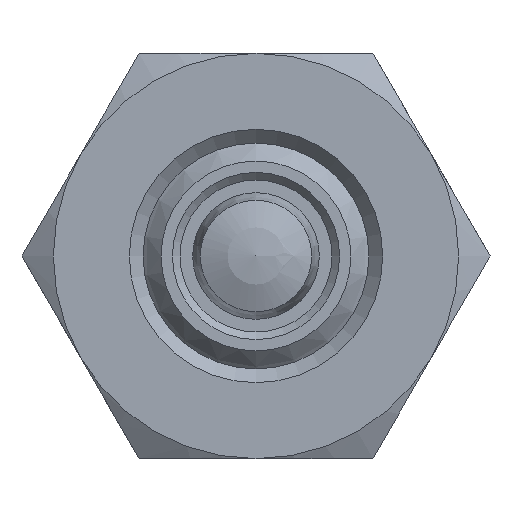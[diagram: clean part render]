
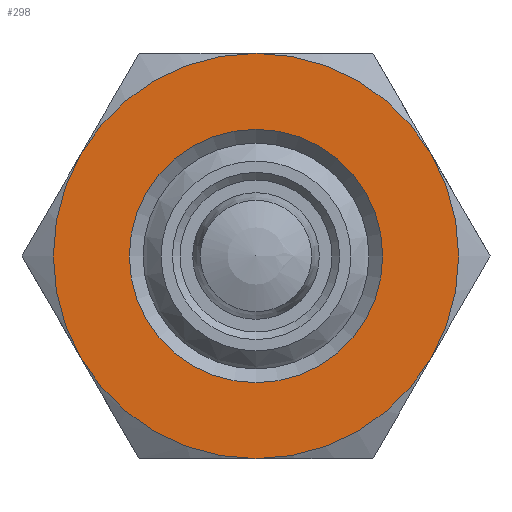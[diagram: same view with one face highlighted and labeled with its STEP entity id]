
A CAD part, front view. The second image highlights one B-rep face of the part: STEP entity #298.
In plain terms, the highlighted planar face has unit normal (0, -1, 0).
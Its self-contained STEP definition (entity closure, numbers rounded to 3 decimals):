
#298 = ADVANCED_FACE( '', ( #445, #446 ), #447, .F. );
#445 = FACE_BOUND( '', #595, .T. );
#446 = FACE_OUTER_BOUND( '', #596, .T. );
#447 = PLANE( '', #597 );
#595 = EDGE_LOOP( '', ( #937 ) );
#596 = EDGE_LOOP( '', ( #938, #939, #940, #941, #942, #943 ) );
#597 = AXIS2_PLACEMENT_3D( '', #944, #945, #946 );
#937 = ORIENTED_EDGE( '', *, *, #1046, .F. );
#938 = ORIENTED_EDGE( '', *, *, #1049, .T. );
#939 = ORIENTED_EDGE( '', *, *, #1050, .T. );
#940 = ORIENTED_EDGE( '', *, *, #1016, .T. );
#941 = ORIENTED_EDGE( '', *, *, #1041, .T. );
#942 = ORIENTED_EDGE( '', *, *, #1042, .T. );
#943 = ORIENTED_EDGE( '', *, *, #1043, .T. );
#944 = CARTESIAN_POINT( '', ( 8., 0., 0. ) );
#945 = DIRECTION( '', ( 0., 1., 0. ) );
#946 = DIRECTION( '', ( 0., 0., 1. ) );
#1016 = EDGE_CURVE( '', #1156, #1157, #1158, .T. );
#1041 = EDGE_CURVE( '', #1157, #1138, #1195, .T. );
#1042 = EDGE_CURVE( '', #1138, #1150, #1196, .T. );
#1043 = EDGE_CURVE( '', #1150, #1197, #1198, .T. );
#1046 = EDGE_CURVE( '', #1201, #1201, #1202, .T. );
#1049 = EDGE_CURVE( '', #1197, #1165, #1207, .T. );
#1050 = EDGE_CURVE( '', #1165, #1156, #1208, .T. );
#1138 = VERTEX_POINT( '', #1411 );
#1150 = VERTEX_POINT( '', #1445 );
#1156 = VERTEX_POINT( '', #1475 );
#1157 = VERTEX_POINT( '', #1476 );
#1158 = CIRCLE( '', #1477, 8. );
#1165 = VERTEX_POINT( '', #1497 );
#1195 = CIRCLE( '', #1597, 8. );
#1196 = CIRCLE( '', #1598, 8. );
#1197 = VERTEX_POINT( '', #1599 );
#1198 = CIRCLE( '', #1600, 8. );
#1201 = VERTEX_POINT( '', #1615 );
#1202 = CIRCLE( '', #1616, 5. );
#1207 = CIRCLE( '', #1621, 8. );
#1208 = CIRCLE( '', #1622, 8. );
#1411 = CARTESIAN_POINT( '', ( -8., 0., 0. ) );
#1445 = CARTESIAN_POINT( '', ( -4., 0., -6.928 ) );
#1475 = CARTESIAN_POINT( '', ( 4., 0., 6.928 ) );
#1476 = CARTESIAN_POINT( '', ( -4., 0., 6.928 ) );
#1477 = AXIS2_PLACEMENT_3D( '', #1713, #1714, #1715 );
#1497 = CARTESIAN_POINT( '', ( 8., 0., 0. ) );
#1597 = AXIS2_PLACEMENT_3D( '', #1740, #1741, #1742 );
#1598 = AXIS2_PLACEMENT_3D( '', #1743, #1744, #1745 );
#1599 = CARTESIAN_POINT( '', ( 4., 0., -6.928 ) );
#1600 = AXIS2_PLACEMENT_3D( '', #1746, #1747, #1748 );
#1615 = CARTESIAN_POINT( '', ( 0., 0., -5. ) );
#1616 = AXIS2_PLACEMENT_3D( '', #1749, #1750, #1751 );
#1621 = AXIS2_PLACEMENT_3D( '', #1758, #1759, #1760 );
#1622 = AXIS2_PLACEMENT_3D( '', #1761, #1762, #1763 );
#1713 = CARTESIAN_POINT( '', ( 0., 0., 0. ) );
#1714 = DIRECTION( '', ( 0., -1., 0. ) );
#1715 = DIRECTION( '', ( 0., 0., -1. ) );
#1740 = CARTESIAN_POINT( '', ( 0., 0., 0. ) );
#1741 = DIRECTION( '', ( 0., -1., 0. ) );
#1742 = DIRECTION( '', ( 0., 0., -1. ) );
#1743 = CARTESIAN_POINT( '', ( 0., 0., 0. ) );
#1744 = DIRECTION( '', ( 0., -1., 0. ) );
#1745 = DIRECTION( '', ( 0., 0., -1. ) );
#1746 = CARTESIAN_POINT( '', ( 0., 0., 0. ) );
#1747 = DIRECTION( '', ( 0., -1., 0. ) );
#1748 = DIRECTION( '', ( 0., 0., -1. ) );
#1749 = CARTESIAN_POINT( '', ( 0., 0., 0. ) );
#1750 = DIRECTION( '', ( 0., -1., 0. ) );
#1751 = DIRECTION( '', ( 0., 0., -1. ) );
#1758 = CARTESIAN_POINT( '', ( 0., 0., 0. ) );
#1759 = DIRECTION( '', ( 0., -1., 0. ) );
#1760 = DIRECTION( '', ( 0., 0., -1. ) );
#1761 = CARTESIAN_POINT( '', ( 0., 0., 0. ) );
#1762 = DIRECTION( '', ( 0., -1., 0. ) );
#1763 = DIRECTION( '', ( 0., 0., -1. ) );
